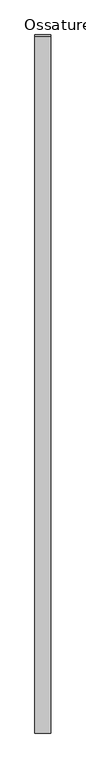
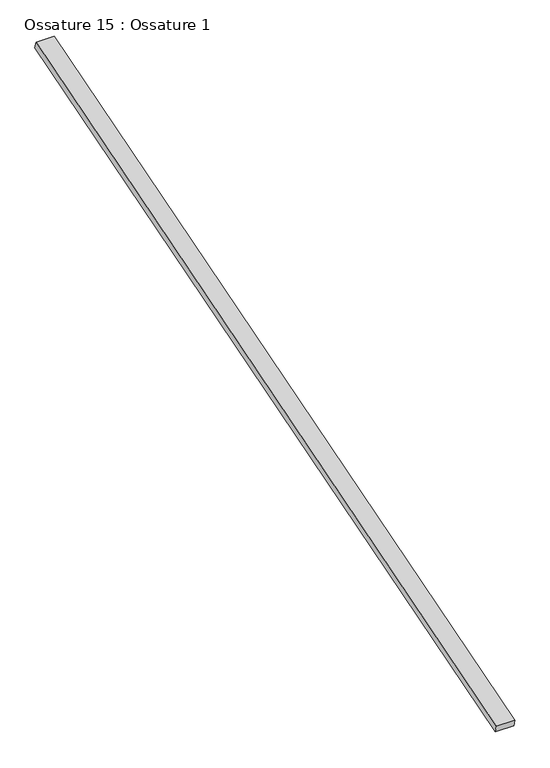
"""IFC4 building model written with IfcOpenShell, lengths in millimetres: beam geometry, Ossature 15 : Ossature 1."""

from ifc_helpers import new_model, si_unit, frame, origin, place, context, project, spatial, polyline, outline, extrude, source, transform, mapped, element, save


def ossature_15_ossature_1_56f99485(model_context):
    return source(origin(), model_context, "Body", "SweptSolid", [
        extrude(outline(polyline([(0.0, 0.0), (0.0, -4543.0299679), (-100.0, -4543.0299679), (-100.0, 0.0), (0.0, 0.0)])), frame((3882.6466393, -833.3913565, 8153.6336115), z_axis=(0.0, -0.28734788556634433, 0.9578262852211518), x_axis=(-1.0, 0.0, 0.0)), (0.0, 0.0, 1.0), 40.0),
    ])


if __name__ == "__main__":
    model = new_model("IFC4")
    model_context = context("Model", 3, world=origin())
    ifc_project = project(units=[si_unit("LENGTHUNIT", "METRE", prefix="MILLI")], contexts=[model_context])
    site = spatial("IfcSite", under=ifc_project)
    building = spatial("IfcBuilding", under=site)
    placement = place(None, origin())
    ossature_15_ossature_1_shape = ossature_15_ossature_1_56f99485(model_context)
    element("IfcBeam", 1, ObjectType="Ossature 15 : Ossature 1", at=placement, inside=building, context=model_context, shape_type="MappedRepresentation", body=[
        mapped(ossature_15_ossature_1_shape, transform((0.0, 0.0, 0.0), x_axis=(1.0, 0.0, 0.0), y_axis=(0.0, 1.0, 0.0), z_axis=(0.0, 0.0, 1.0))),
    ])
    save(model, "model.ifc")
